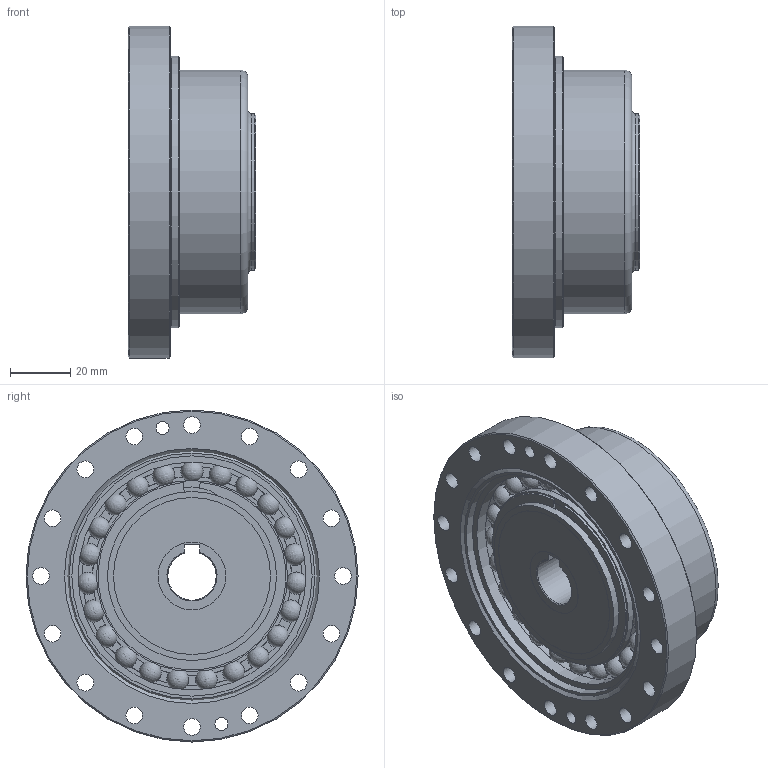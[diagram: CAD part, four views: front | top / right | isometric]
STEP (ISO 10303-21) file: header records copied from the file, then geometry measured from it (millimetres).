
FILE_DESCRIPTION(/* description */ (''),/* implementation_level */ '2;1');
FILE_NAME(/* name */ 'Getriebeset_CTG_81_FK.stp',/* time_stamp */ '2026-03-09T10:53:19+01:00',/* author */ (''),/* organization */ (''),/* preprocessor_version */ 'ST-DEVELOPER v19.4',/* originating_system */ 'SIEMENS PLM Software NX2212.9120',/* authorisation */ '');
FILE_SCHEMA (('AUTOMOTIVE_DESIGN { 1 0 10303 214 3 1 1 1 }'));
Length unit declared in the file: millimetre
Products named in the file (1): Getriebeset_CTG_81_FK
Bounding box: 42.4 x 110 x 110 mm (x, y, z)
Volume: 126713.5 mm3; surface area: 81248.7 mm2
Topology: 30 solids, 30 shells, 226 faces, 632 edges, 429 vertices
Faces by surface type: cylinder 91, plane 69, sphere 27, bspline 21, cone 12, torus 6
Full cylindrical faces by diameter (mm): 4.3 x4, 5.5 x16, 9 x8, 22.5 x1, 26 x1, 52 x2, 54.06 x1, 56 x1, 59 x2, 63 x1, 63.3 x2, 70 x1, 75.5 x2, 79.6 x2, 80.8 x1, 81.5 x1, 83 x1, 90 x1, 110 x1
Entity records: 8556 total; most frequent: CARTESIAN_POINT 3353, DIRECTION 971, ORIENTED_EDGE 910, EDGE_CURVE 455, AXIS2_PLACEMENT_3D 438, VERTEX_POINT 364, EDGE_LOOP 346, FACE_BOUND 253
